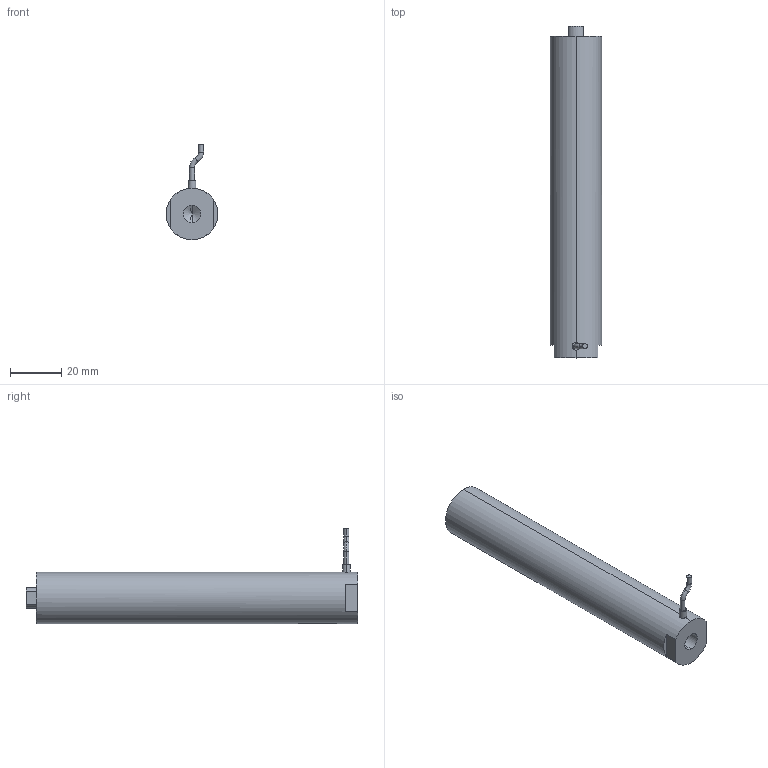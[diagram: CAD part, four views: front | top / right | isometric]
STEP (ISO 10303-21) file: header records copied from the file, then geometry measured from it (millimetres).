
FILE_DESCRIPTION (( 'STEP AP203' ), '1' );
FILE_NAME ('ﾄﾚﾂﾝﾎﾆﾊｽ120VS20.STEP', '2021-07-08T05:26:09', ( 'ﾎ｢ﾈ橆ﾃｻｧ' ), ( 'ﾎ｢ﾈ晥ｫﾋｾ' ), 'SwSTEP 2.0', 'SolidWorks 2016', '' );
FILE_SCHEMA (( 'CONFIG_CONTROL_DESIGN' ));
Products named in the file (1): 囀蹟恇宒120VS20
Bounding box: 20 x 129 x 37.06 mm (x, y, z)
Volume: 38880.8 mm3; surface area: 9038.2 mm2
Topology: 1 solids, 1 shells, 943 faces, 2555 edges, 1696 vertices
Faces by surface type: bspline 517, plane 311, cylinder 107, torus 4, cone 4
Entity records: 45138 total; most frequent: CARTESIAN_POINT 25996, ORIENTED_EDGE 5094, EDGE_CURVE 2547, DIRECTION 1967, B_SPLINE_CURVE_WITH_KNOTS 1710, VERTEX_POINT 1694, EDGE_LOOP 1031, ADVANCED_FACE 943
